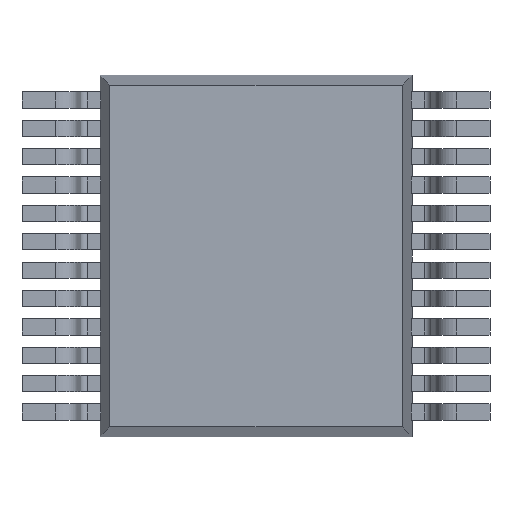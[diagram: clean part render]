
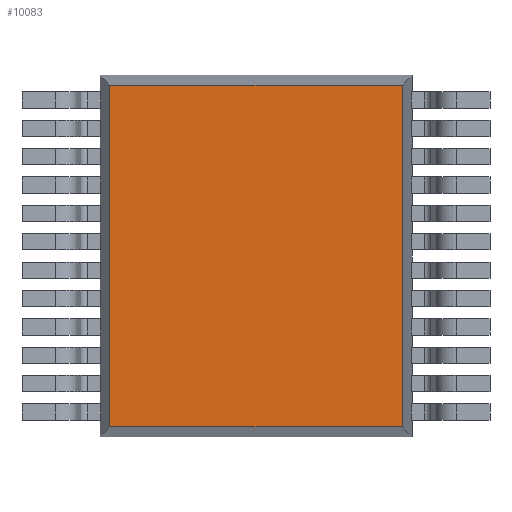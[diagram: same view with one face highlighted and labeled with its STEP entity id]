
A CAD part, front view. The second image highlights one B-rep face of the part: STEP entity #10083.
In plain terms, the highlighted planar face has unit normal (0, -1, 0).
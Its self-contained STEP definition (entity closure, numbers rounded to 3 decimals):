
#201 = LINE ( 'NONE', #4409, #206 ) ;
#206 = VECTOR ( 'NONE', #4422, 1000. ) ;
#350 = LINE ( 'NONE', #12699, #361 ) ;
#361 = VECTOR ( 'NONE', #12724, 1000. ) ;
#800 = LINE ( 'NONE', #1343, #812 ) ;
#807 = LINE ( 'NONE', #1347, #810 ) ;
#810 = VECTOR ( 'NONE', #1349, 1000. ) ;
#812 = VECTOR ( 'NONE', #1350, 1000. ) ;
#1343 = CARTESIAN_POINT ( 'NONE',  ( 2.2, 0.1, 2.409 ) ) ;
#1347 = CARTESIAN_POINT ( 'NONE',  ( 2.2, 0.1, -2.409 ) ) ;
#1349 = DIRECTION ( 'NONE',  ( 1., 0., 0. ) ) ;
#1350 = DIRECTION ( 'NONE',  ( -1., 0., 0. ) ) ;
#4409 = CARTESIAN_POINT ( 'NONE',  ( 2.059, 0.1, 2.55 ) ) ;
#4422 = DIRECTION ( 'NONE',  ( 0., 0., 1. ) ) ;
#6384 = CARTESIAN_POINT ( 'NONE',  ( -2.059, 0.1, -2.409 ) ) ;
#6386 = CARTESIAN_POINT ( 'NONE',  ( -2.059, 0.1, 2.409 ) ) ;
#6391 = CARTESIAN_POINT ( 'NONE',  ( 2.059, 0.1, 2.409 ) ) ;
#6395 = CARTESIAN_POINT ( 'NONE',  ( 2.059, 0.1, -2.409 ) ) ;
#6628 = EDGE_CURVE ( 'NONE', #13648, #13675, #807, .T. ) ;
#6629 = EDGE_CURVE ( 'NONE', #13665, #13654, #800, .T. ) ;
#6944 = EDGE_CURVE ( 'NONE', #13675, #13665, #201, .T. ) ;
#9011 = ORIENTED_EDGE ( 'NONE', *, *, #9514, .T. ) ;
#9012 = ORIENTED_EDGE ( 'NONE', *, *, #6628, .T. ) ;
#9013 = ORIENTED_EDGE ( 'NONE', *, *, #6944, .T. ) ;
#9014 = ORIENTED_EDGE ( 'NONE', *, *, #6629, .T. ) ;
#9203 = AXIS2_PLACEMENT_3D ( 'NONE', #11826, #11831, #11832 ) ;
#9514 = EDGE_CURVE ( 'NONE', #13654, #13648, #350, .T. ) ;
#10083 = ADVANCED_FACE ( 'NONE', ( #11400 ), #11825, .F. ) ;
#10598 = EDGE_LOOP ( 'NONE', ( #9011, #9012, #9013, #9014 ) ) ;
#11400 = FACE_OUTER_BOUND ( 'NONE', #10598, .T. ) ;
#11825 = PLANE ( 'NONE',  #9203 ) ;
#11826 = CARTESIAN_POINT ( 'NONE',  ( 0., 0.1, 0. ) ) ;
#11831 = DIRECTION ( 'NONE',  ( 0., 1., 0. ) ) ;
#11832 = DIRECTION ( 'NONE',  ( 0., 0., 1. ) ) ;
#12699 = CARTESIAN_POINT ( 'NONE',  ( -2.059, 0.1, 2.55 ) ) ;
#12724 = DIRECTION ( 'NONE',  ( 0., 0., -1. ) ) ;
#13648 = VERTEX_POINT ( 'NONE', #6384 ) ;
#13654 = VERTEX_POINT ( 'NONE', #6386 ) ;
#13665 = VERTEX_POINT ( 'NONE', #6391 ) ;
#13675 = VERTEX_POINT ( 'NONE', #6395 ) ;
